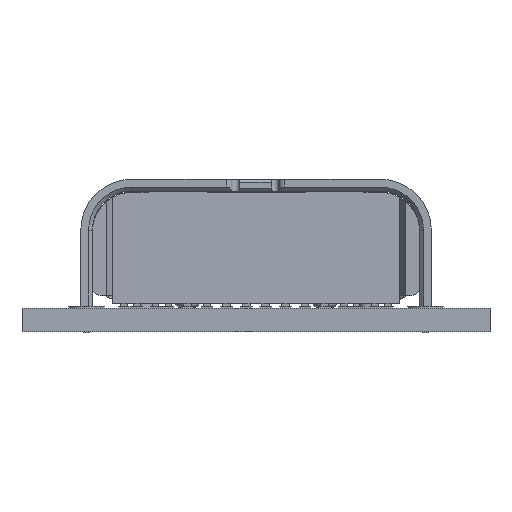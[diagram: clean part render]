
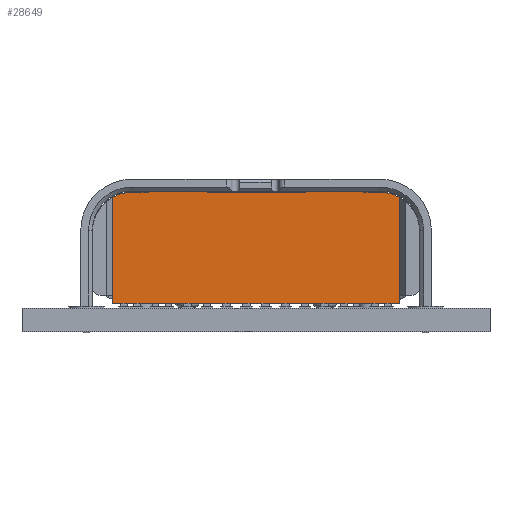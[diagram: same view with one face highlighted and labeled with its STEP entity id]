
A CAD part, front view. The second image highlights one B-rep face of the part: STEP entity #28649.
In plain terms, the highlighted planar face has unit normal (0, -1, 0).
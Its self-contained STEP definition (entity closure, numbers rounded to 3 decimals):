
#17810=DIRECTION('',(0.,0.,-1.));
#17811=VECTOR('',#17810,2.507);
#17812=CARTESIAN_POINT('',(3.65,-6.65,-0.453));
#17813=LINE('',#17812,#17811);
#17817=CARTESIAN_POINT('',(3.65,-6.65,-0.453));
#17823=CARTESIAN_POINT('',(-3.17,-6.65,-1.33));
#17824=DIRECTION('',(0.,-1.,0.));
#17825=DIRECTION('',(0.,0.,1.));
#17826=AXIS2_PLACEMENT_3D('',#17823,#17824,#17825);
#17828=DIRECTION('',(-1.,0.,0.));
#17829=VECTOR('',#17828,0.42);
#17830=CARTESIAN_POINT('',(-2.75,-6.65,-0.33));
#17831=LINE('',#17830,#17829);
#17832=DIRECTION('',(0.,0.,-1.));
#17833=VECTOR('',#17832,0.03);
#17834=CARTESIAN_POINT('',(-2.75,-6.65,-0.3));
#17835=LINE('',#17834,#17833);
#17836=DIRECTION('',(-1.,0.,0.));
#17837=VECTOR('',#17836,1.5);
#17838=CARTESIAN_POINT('',(-1.25,-6.65,-0.3));
#17839=LINE('',#17838,#17837);
#17840=DIRECTION('',(0.,0.,1.));
#17841=VECTOR('',#17840,0.03);
#17842=CARTESIAN_POINT('',(-1.25,-6.65,-0.33));
#17843=LINE('',#17842,#17841);
#17844=DIRECTION('',(-1.,0.,0.));
#17845=VECTOR('',#17844,2.5);
#17846=CARTESIAN_POINT('',(1.25,-6.65,-0.33));
#17847=LINE('',#17846,#17845);
#17848=DIRECTION('',(0.,0.,-1.));
#17849=VECTOR('',#17848,0.03);
#17850=CARTESIAN_POINT('',(1.25,-6.65,-0.3));
#17851=LINE('',#17850,#17849);
#17852=DIRECTION('',(-1.,0.,0.));
#17853=VECTOR('',#17852,1.5);
#17854=CARTESIAN_POINT('',(2.75,-6.65,-0.3));
#17855=LINE('',#17854,#17853);
#17856=DIRECTION('',(0.,0.,1.));
#17857=VECTOR('',#17856,0.03);
#17858=CARTESIAN_POINT('',(2.75,-6.65,-0.33));
#17859=LINE('',#17858,#17857);
#17860=DIRECTION('',(-1.,0.,0.));
#17861=VECTOR('',#17860,0.42);
#17862=CARTESIAN_POINT('',(3.17,-6.65,-0.33));
#17863=LINE('',#17862,#17861);
#17864=CARTESIAN_POINT('',(3.17,-6.65,-1.33));
#17865=DIRECTION('',(0.,-1.,0.));
#17866=DIRECTION('',(0.48,0.,0.877));
#17867=AXIS2_PLACEMENT_3D('',#17864,#17865,#17866);
#17869=DIRECTION('',(0.,0.,1.));
#17870=VECTOR('',#17869,0.205);
#17871=CARTESIAN_POINT('',(3.65,-6.65,-3.165));
#17872=LINE('',#17871,#17870);
#17873=DIRECTION('',(1.,0.,0.));
#17874=VECTOR('',#17873,7.3);
#17875=CARTESIAN_POINT('',(-3.65,-6.65,-3.165));
#17876=LINE('',#17875,#17874);
#17877=DIRECTION('',(0.,0.,-1.));
#17878=VECTOR('',#17877,0.205);
#17879=CARTESIAN_POINT('',(-3.65,-6.65,-2.96));
#17880=LINE('',#17879,#17878);
#17881=DIRECTION('',(0.,0.,-1.));
#17882=VECTOR('',#17881,2.507);
#17883=CARTESIAN_POINT('',(-3.65,-6.65,-0.453));
#17884=LINE('',#17883,#17882);
#25275=VERTEX_POINT('',#17817);
#25366=CARTESIAN_POINT('',(3.65,-6.65,-2.96));
#25368=VERTEX_POINT('',#25366);
#25369=CARTESIAN_POINT('',(-1.25,-6.65,-0.3));
#25370=VERTEX_POINT('',#25369);
#25430=CARTESIAN_POINT('',(1.25,-6.65,-0.3));
#25432=VERTEX_POINT('',#25430);
#25776=CARTESIAN_POINT('',(-3.65,-6.65,-2.96));
#25778=VERTEX_POINT('',#25776);
#25784=CARTESIAN_POINT('',(-3.17,-6.65,-0.33));
#25785=VERTEX_POINT('',#25784);
#25932=CARTESIAN_POINT('',(3.17,-6.65,-0.33));
#25933=VERTEX_POINT('',#25932);
#25982=CARTESIAN_POINT('',(2.75,-6.65,-0.33));
#25983=VERTEX_POINT('',#25982);
#26024=CARTESIAN_POINT('',(-2.75,-6.65,-0.33));
#26025=VERTEX_POINT('',#26024);
#26392=CARTESIAN_POINT('',(2.75,-6.65,-0.3));
#26393=VERTEX_POINT('',#26392);
#26779=CARTESIAN_POINT('',(1.25,-6.65,-0.33));
#26780=CARTESIAN_POINT('',(-1.25,-6.65,-0.33));
#26781=VERTEX_POINT('',#26779);
#26782=VERTEX_POINT('',#26780);
#26793=CARTESIAN_POINT('',(-3.65,-6.65,-3.165));
#26794=VERTEX_POINT('',#26793);
#26795=CARTESIAN_POINT('',(3.65,-6.65,-3.165));
#26796=VERTEX_POINT('',#26795);
#26931=CARTESIAN_POINT('',(-3.65,-6.65,-0.453));
#26932=VERTEX_POINT('',#26931);
#26963=CARTESIAN_POINT('',(-2.75,-6.65,-0.3));
#26964=VERTEX_POINT('',#26963);
#28612=CARTESIAN_POINT('',(3.65,-6.65,-10.33));
#28613=DIRECTION('',(0.,1.,0.));
#28614=DIRECTION('',(0.,0.,1.));
#28615=AXIS2_PLACEMENT_3D('',#28612,#28613,#28614);
#28616=PLANE('',#28615);
#28618=ORIENTED_EDGE('',*,*,#28617,.F.);
#28620=ORIENTED_EDGE('',*,*,#28619,.F.);
#28622=ORIENTED_EDGE('',*,*,#28621,.F.);
#28624=ORIENTED_EDGE('',*,*,#28623,.F.);
#28626=ORIENTED_EDGE('',*,*,#28625,.F.);
#28628=ORIENTED_EDGE('',*,*,#28627,.F.);
#28630=ORIENTED_EDGE('',*,*,#28629,.F.);
#28632=ORIENTED_EDGE('',*,*,#28631,.F.);
#28634=ORIENTED_EDGE('',*,*,#28633,.F.);
#28636=ORIENTED_EDGE('',*,*,#28635,.F.);
#28637=ORIENTED_EDGE('',*,*,#28586,.F.);
#28638=ORIENTED_EDGE('',*,*,#28604,.T.);
#28640=ORIENTED_EDGE('',*,*,#28639,.F.);
#28642=ORIENTED_EDGE('',*,*,#28641,.F.);
#28644=ORIENTED_EDGE('',*,*,#28643,.F.);
#28646=ORIENTED_EDGE('',*,*,#28645,.F.);
#28647=EDGE_LOOP('',(#28618,#28620,#28622,#28624,#28626,#28628,#28630,#28632,
#28634,#28636,#28637,#28638,#28640,#28642,#28644,#28646));
#28648=FACE_OUTER_BOUND('',#28647,.F.);
#28649=ADVANCED_FACE('',(#28648),#28616,.F.);
#17827=CIRCLE('',#17826,1.);
#17868=CIRCLE('',#17867,1.);
#28586=EDGE_CURVE('',#25275,#25933,#17868,.T.);
#28604=EDGE_CURVE('',#25275,#25368,#17813,.T.);
#28617=EDGE_CURVE('',#25785,#26932,#17827,.T.);
#28619=EDGE_CURVE('',#26025,#25785,#17831,.T.);
#28621=EDGE_CURVE('',#26964,#26025,#17835,.T.);
#28623=EDGE_CURVE('',#25370,#26964,#17839,.T.);
#28625=EDGE_CURVE('',#26782,#25370,#17843,.T.);
#28627=EDGE_CURVE('',#26781,#26782,#17847,.T.);
#28629=EDGE_CURVE('',#25432,#26781,#17851,.T.);
#28631=EDGE_CURVE('',#26393,#25432,#17855,.T.);
#28633=EDGE_CURVE('',#25983,#26393,#17859,.T.);
#28635=EDGE_CURVE('',#25933,#25983,#17863,.T.);
#28639=EDGE_CURVE('',#26796,#25368,#17872,.T.);
#28641=EDGE_CURVE('',#26794,#26796,#17876,.T.);
#28643=EDGE_CURVE('',#25778,#26794,#17880,.T.);
#28645=EDGE_CURVE('',#26932,#25778,#17884,.T.);
